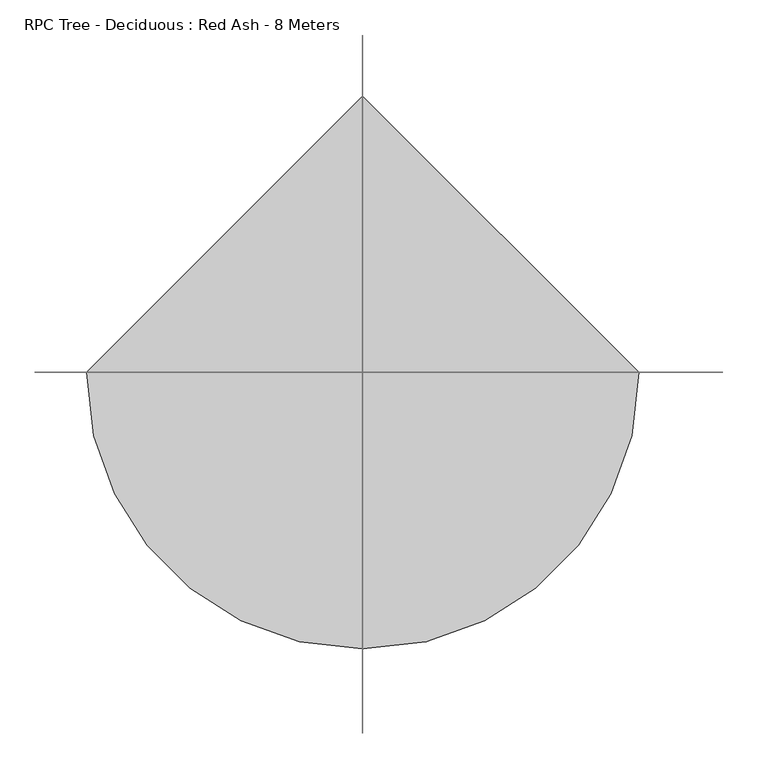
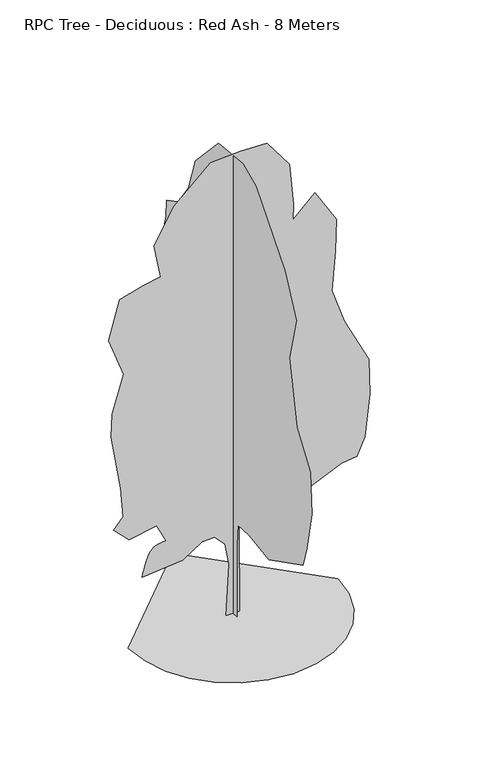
"""IFC4 building model written with IfcOpenShell, lengths in millimetres: geographic element geometry, RPC Tree - Deciduous : Red Ash - 8 Meters."""

from ifc_helpers import new_model, si_unit, origin, place, context, project, spatial, triangles, source, transform, mapped, element, save


def rpc_tree_deciduous_red_ash_8_meters_4b979eff(model_context):
    return source(origin(), model_context, "Body", "Tessellation", [
        triangles([(-1726.984267, 0.0, 6.49e-05), (-1681.3281876, -395.710621, 6.49e-05), (-1551.3012405, -759.107444, 6.49e-05), (-1347.3138371, -1079.7788589, 6.49e-05), (-1079.7790043, -1347.3139824, 6.49e-05), (-759.1072987, -1551.3008045, 6.49e-05), (-395.7104393, -1681.3281876, 6.49e-05), (7.55e-05, -1726.984267, 6.49e-05), (395.710621, -1681.3283329, 6.49e-05), (759.1075167, -1551.3010952, 6.49e-05), (1079.7790043, -1347.3138371, 6.49e-05), (1347.3142731, -1079.7790043, 6.49e-05), (1551.3009499, -759.107226, 6.49e-05), (1681.3281876, -395.7103303, 6.49e-05), (1726.984267, 0.000151, 6.49e-05), (-0.0002265, 1726.984267, 6.49e-05), (-1.13e-05, -107.9750772, 0.0), (2.63e-05, -106.2957647, 1254.1250484), (3.39e-05, -136.3590096, 1614.4912788), (7e-07, -460.7090881, 1635.8693344), (-6.07e-05, -1025.0827063, 1552.028231), (-0.0001475, -1998.62757, 2045.8552105), (-0.0001483, -2111.5023663, 2412.6983711), (-0.0001429, -2252.595789, 3089.9468582), (-0.0001174, -2210.26814, 3795.4142624), (-6.1e-05, -1827.1727737, 4347.5247482), (-5.8e-06, -1603.5681084, 5417.9896408), (-3.7e-06, -1801.0973305, 6179.8942978), (5.03e-05, -1476.5826908, 6857.1424942), (0.0001647, -658.240781, 7830.6877213), (0.0002084, -286.8248799, 7998.1042465), (0.0002795, 414.0699291, 7929.4537857), (0.0003277, 1077.209321, 7223.9858002), (0.0003306, 1274.7403599, 6631.393483), (0.0003489, 1571.0355011, 6208.1129242), (0.0003777, 1895.5518848, 6038.8011658), (0.0003708, 1909.661198, 5756.613739), (0.0003699, 1994.3173679, 5432.0986633), (0.0003438, 1853.2239452, 5051.1463348), (0.0003462, 1980.2080547, 4684.3036102), (0.0003443, 2107.1921642, 4176.3671722), (0.0003371, 2078.9735378, 4035.2734589), (0.000302, 1839.1147774, 3696.64907), (0.0002865, 1823.9491333, 3231.0405716), (0.0002764, 1810.8958603, 2934.7441223), (0.0002669, 1825.0051735, 2567.9013977), (0.0002532, 1839.1149227, 2059.9651051), (0.000228, 1641.5838112, 1904.7619331), (0.0001897, 1274.7409412, 1904.7619331), (0.0001918, 1444.0529903, 1382.7161819), (0.0001801, 1415.7429451, 1086.492984), (0.0001592, 1158.0378902, 1289.0671017), (0.0001036, 660.8531942, 1161.8977564), (0.0001029, 579.2250009, 1424.7358555), (6.6e-05, 226.6800772, 1421.525005), (5.28e-05, 137.3241306, 1289.5900349), (3.43e-05, 83.5163594, 859.0899313), (1.23e-05, 117.7595908, 1.35e-05), (-116.3998627, 5.1e-06, 4.68e-05), (-70.038294, -0.0001013, 875.0673717), (-135.7556944, -0.0001427, 1247.1847744), (-305.2891053, -0.0001575, 1433.4043671), (-507.7548357, -0.0001479, 1426.4529018), (-835.9767345, -0.0001081, 1213.4040602), (-1499.1160538, -7.24e-05, 1156.9668074), (-1489.9429218, -7.71e-05, 1193.4537518), (-1480.1528217, -8.21e-05, 1231.1745598), (-1469.12864, -8.73e-05, 1271.3633858), (-1456.2532631, -9.31e-05, 1315.2548927), (-1440.9100136, -9.96e-05, 1364.0815636), (-1422.4816326, -0.000107, 1419.07966), (-1400.3508614, -0.0001154, 1481.4815197), (-1372.4612846, -0.0001235, 1539.3588009), (-1337.9077251, -0.0001301, 1581.6867405), (-1297.8010162, -0.0001353, 1611.0568954), (-1253.2515553, -0.0001395, 1630.0618401), (-1205.3703936, -0.000143, 1641.2913872), (-1155.2675652, -0.0001459, 1647.3381111), (-1104.0542667, -0.0001485, 1650.7937141), (-1259.2568573, -0.0001787, 1961.1993313), (-1710.7563332, -0.0001489, 1876.5431614), (-1964.7241161, -0.0001681, 2130.5118164), (-1809.5213802, -0.0001967, 2313.9333241), (-1851.8493198, -0.0002554, 2821.8699074), (-2007.0520557, -0.0003614, 3767.195636), (-1993.1556656, -0.0004086, 4158.7040062), (-1805.6876026, -0.0004922, 4790.8930344), (-2049.380286, -0.0005613, 5460.3172897), (-1865.9584877, -0.0006467, 6109.3474411), (-1485.0065952, -0.0006768, 6222.2219467), (-1195.1844601, -0.0006956, 6273.3467331), (-1301.5852329, -0.0007589, 6843.0334717), (-977.0699392, -0.000842, 7421.5173477), (-370.3677638, -0.0009341, 7971.782016), (123.4589885, -0.0009591, 8000.000061), (560.8490876, -0.0009765, 7985.8904572), (927.6920666, -0.0009337, 7492.063623), (995.1412926, -0.0008504, 6769.0478714), (985.4560553, -0.0008184, 6503.9053345), (1350.9723347, -0.0008748, 6843.0334717), (1703.7061821, -0.0008213, 6264.550177), (1689.5968689, -0.0007555, 5718.1201584), (1626.7270145, -0.0006719, 5040.05457), (1830.6901463, -0.0006098, 4444.4444138), (2238.0725475, -0.000532, 3642.202684), (2251.0608536, -0.0004604, 3037.0704346), (2169.3143898, -0.0003707, 2313.9330334), (2042.3302803, -0.0003298, 2017.6367294), (1788.3620613, -0.0003153, 1989.4179577), (1294.5350819, -0.0002668, 1763.6683651), (857.1449192, -0.0002107, 1453.2628933), (270.3165852, -0.0002151, 1705.5841198), (97.6912027, -0.0001854, 1519.8265629), (109.3493302, -4.8e-06, 3.69e-05)], [[15, 16, 1], [14, 15, 1], [14, 1, 2], [13, 14, 2], [13, 2, 3], [13, 3, 4], [12, 13, 4], [11, 12, 4], [11, 4, 5], [11, 5, 6], [11, 6, 7], [11, 7, 8], [11, 8, 9], [11, 9, 10], [50, 51, 52], [57, 58, 17], [57, 17, 18], [56, 57, 18], [56, 18, 19], [55, 56, 19], [49, 50, 52], [52, 53, 54], [49, 52, 54], [35, 36, 37], [46, 47, 48], [46, 48, 49], [21, 22, 23], [20, 21, 23], [20, 23, 24], [20, 24, 25], [20, 25, 26], [19, 20, 26], [19, 26, 27], [45, 46, 49], [31, 32, 33], [30, 31, 33], [29, 30, 33], [29, 33, 34], [28, 29, 34], [27, 28, 34], [19, 27, 34], [19, 34, 35], [19, 35, 37], [19, 37, 38], [19, 38, 39], [19, 39, 40], [19, 40, 41], [19, 41, 42], [19, 42, 43], [19, 43, 44], [19, 44, 45], [19, 45, 49], [19, 49, 54], [55, 19, 54], [64, 65, 66], [64, 66, 67], [64, 67, 68], [99, 100, 101], [64, 68, 69], [64, 69, 70], [64, 70, 71], [114, 59, 60], [113, 114, 60], [113, 60, 61], [113, 61, 62], [64, 71, 72], [64, 72, 73], [64, 73, 74], [64, 74, 75], [64, 75, 76], [64, 76, 77], [64, 77, 78], [64, 78, 79], [63, 64, 79], [81, 82, 83], [80, 81, 83], [99, 101, 102], [107, 108, 109], [110, 111, 112], [88, 89, 90], [87, 88, 90], [87, 90, 91], [80, 83, 84], [95, 96, 97], [95, 97, 98], [94, 95, 98], [93, 94, 98], [92, 93, 98], [91, 92, 98], [91, 98, 99], [87, 91, 99], [87, 99, 102], [87, 102, 103], [87, 103, 104], [86, 87, 104], [85, 86, 104], [84, 85, 104], [80, 84, 104], [80, 104, 105], [80, 105, 106], [80, 106, 107], [80, 107, 109], [80, 109, 110], [80, 110, 112], [79, 80, 112], [63, 79, 112], [62, 63, 112], [113, 62, 112]], closed=False),
    ])


if __name__ == "__main__":
    model = new_model("IFC4")
    model_context = context("Model", 3, world=origin())
    ifc_project = project(units=[si_unit("LENGTHUNIT", "METRE", prefix="MILLI")], contexts=[model_context])
    site = spatial("IfcSite", under=ifc_project)
    building = spatial("IfcBuilding", under=site)
    placement = place(None, origin())
    rpc_tree_deciduous_red_ash_8_meters_shape = rpc_tree_deciduous_red_ash_8_meters_4b979eff(model_context)
    element("IfcGeographicElement", 1, ObjectType="RPC Tree - Deciduous : Red Ash - 8 Meters", at=placement, inside=building, context=model_context, shape_type="MappedRepresentation", body=[
        mapped(rpc_tree_deciduous_red_ash_8_meters_shape, transform((0.0, 0.0, 0.0), x_axis=(1.0, 0.0, 0.0), y_axis=(0.0, 1.0, 0.0), z_axis=(0.0, 0.0, 1.0))),
    ])
    save(model, "model.ifc")
